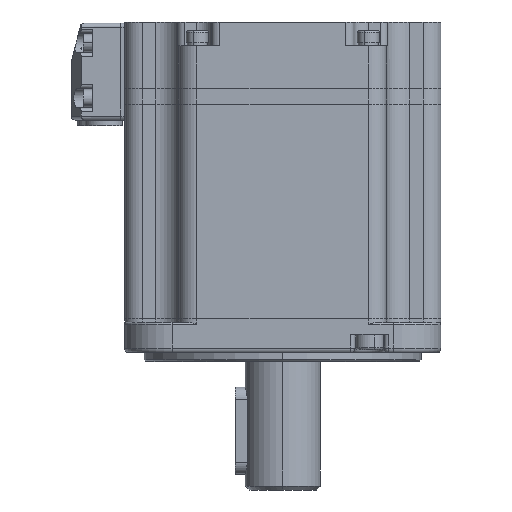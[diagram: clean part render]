
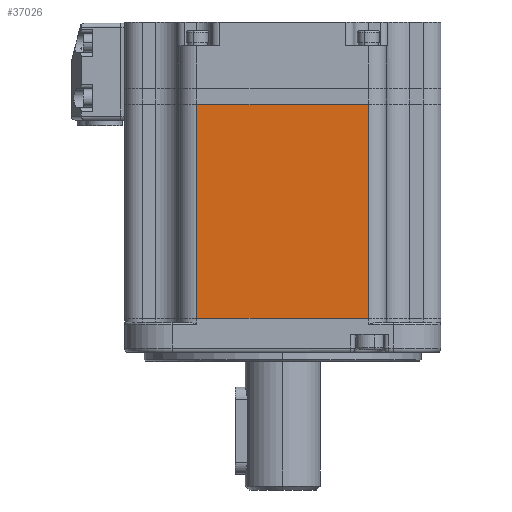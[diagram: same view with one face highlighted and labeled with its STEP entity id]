
A CAD part, left-side view. The second image highlights one B-rep face of the part: STEP entity #37026.
In plain terms, the highlighted planar face has unit normal (-1, 0, 0).
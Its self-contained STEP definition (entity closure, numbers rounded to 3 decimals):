
#900 = VERTEX_POINT ( 'NONE', #32573 ) ;
#2424 = LINE ( 'NONE', #2994, #22761 ) ;
#2994 = CARTESIAN_POINT ( 'NONE',  ( -40., 26.25, 43.4 ) ) ;
#6997 = LINE ( 'NONE', #17030, #50525 ) ;
#8980 = CARTESIAN_POINT ( 'NONE',  ( -40., -21.75, 97.6 ) ) ;
#12856 = CARTESIAN_POINT ( 'NONE',  ( -40., 21.75, 97.6 ) ) ;
#14752 = CARTESIAN_POINT ( 'NONE',  ( -40., 26.25, 97.6 ) ) ;
#15046 = LINE ( 'NONE', #27588, #44067 ) ;
#16291 = EDGE_LOOP ( 'NONE', ( #45365, #31972, #45794, #32137 ) ) ;
#16967 = EDGE_CURVE ( 'NONE', #900, #45976, #6997, .T. ) ;
#17030 = CARTESIAN_POINT ( 'NONE',  ( -40., 26.25, 97.6 ) ) ;
#18146 = EDGE_CURVE ( 'NONE', #900, #47975, #50478, .T. ) ;
#18195 = DIRECTION ( 'NONE',  ( 0., 0., -1. ) ) ;
#19843 = DIRECTION ( 'NONE',  ( 0., -1., 0. ) ) ;
#22761 = VECTOR ( 'NONE', #19843, 1000. ) ;
#23753 = DIRECTION ( 'NONE',  ( 0., 0., 1. ) ) ;
#26580 = DIRECTION ( 'NONE',  ( 1., 0., 0. ) ) ;
#27588 = CARTESIAN_POINT ( 'NONE',  ( -40., -21.75, 97.6 ) ) ;
#28230 = EDGE_CURVE ( 'NONE', #47975, #47672, #2424, .T. ) ;
#30795 = PLANE ( 'NONE',  #38241 ) ;
#31972 = ORIENTED_EDGE ( 'NONE', *, *, #18146, .T. ) ;
#32137 = ORIENTED_EDGE ( 'NONE', *, *, #40578, .T. ) ;
#32573 = CARTESIAN_POINT ( 'NONE',  ( -40., 21.75, 97.6 ) ) ;
#34859 = DIRECTION ( 'NONE',  ( 0., 0., 1. ) ) ;
#35247 = CARTESIAN_POINT ( 'NONE',  ( -40., -21.75, 43.4 ) ) ;
#37026 = ADVANCED_FACE ( 'NONE', ( #50399 ), #30795, .F. ) ;
#38241 = AXIS2_PLACEMENT_3D ( 'NONE', #14752, #26580, #34859 ) ;
#39213 = VECTOR ( 'NONE', #18195, 1000. ) ;
#40578 = EDGE_CURVE ( 'NONE', #47672, #45976, #15046, .T. ) ;
#44067 = VECTOR ( 'NONE', #23753, 1000. ) ;
#45365 = ORIENTED_EDGE ( 'NONE', *, *, #16967, .F. ) ;
#45533 = DIRECTION ( 'NONE',  ( 0., -1., 0. ) ) ;
#45794 = ORIENTED_EDGE ( 'NONE', *, *, #28230, .T. ) ;
#45976 = VERTEX_POINT ( 'NONE', #8980 ) ;
#47672 = VERTEX_POINT ( 'NONE', #35247 ) ;
#47975 = VERTEX_POINT ( 'NONE', #48050 ) ;
#48050 = CARTESIAN_POINT ( 'NONE',  ( -40., 21.75, 43.4 ) ) ;
#50399 = FACE_OUTER_BOUND ( 'NONE', #16291, .T. ) ;
#50478 = LINE ( 'NONE', #12856, #39213 ) ;
#50525 = VECTOR ( 'NONE', #45533, 1000. ) ;
